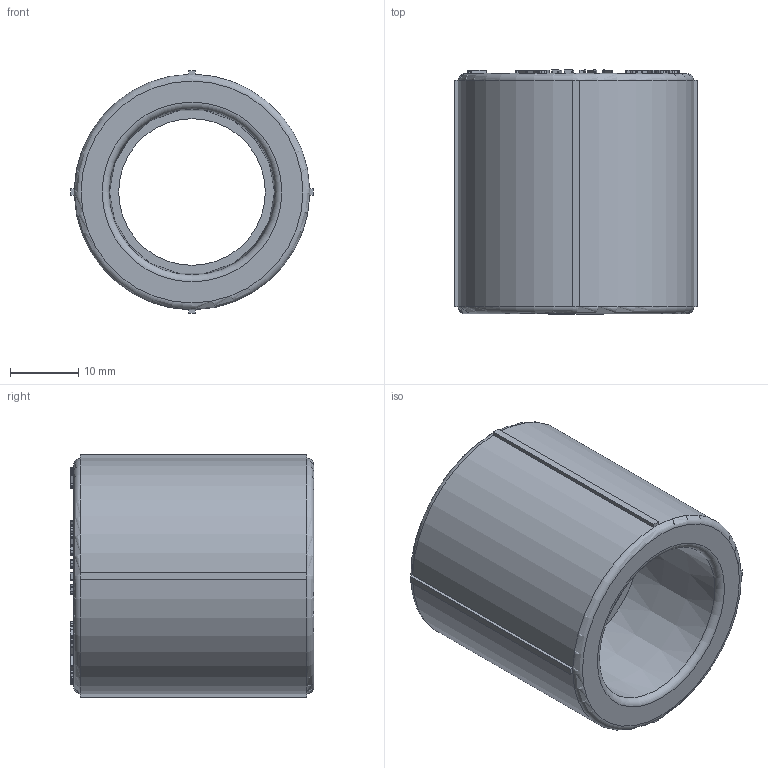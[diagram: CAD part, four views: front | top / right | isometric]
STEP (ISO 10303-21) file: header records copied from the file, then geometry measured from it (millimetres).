
FILE_DESCRIPTION(('STEP AP203'), '1');
FILE_NAME('ÂÐ.713151.002 - VTp.703.0.025', '', ('UNSPECIFIED'), ('UNSPECIFIED'), 'C3D Converter', 'C3D Toolkit', '');
FILE_SCHEMA(('CONFIG_CONTROL_DESIGN'));
Length unit declared in the file: millimetre
Products named in the file (1): ВР.713151.002
Bounding box: 35.6 x 35.7 x 35.6 mm (x, y, z)
Volume: 16901.7 mm3; surface area: 7687.1 mm2
Topology: 1 solids, 1 shells, 562 faces, 1568 edges, 1039 vertices
Faces by surface type: extrusion 320, plane 231, cylinder 5, torus 4, cone 2
Full cylindrical faces by diameter (mm): 21.5 x1
Entity records: 18297 total; most frequent: CARTESIAN_POINT 5083, ORIENTED_EDGE 3122, DIRECTION 1755, EDGE_CURVE 1561, VECTOR 1213, VERTEX_POINT 1039, B_SPLINE_CURVE_WITH_KNOTS 960, LINE 893
